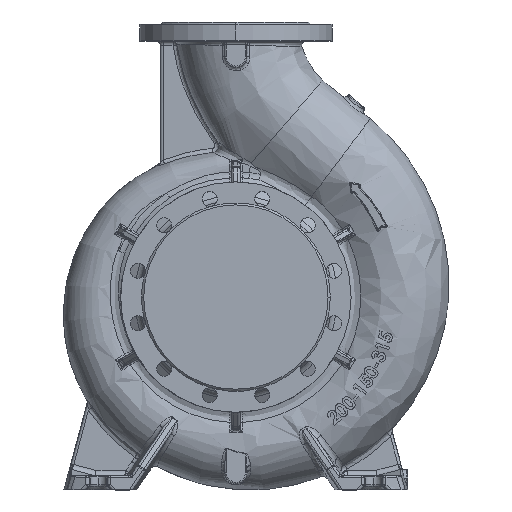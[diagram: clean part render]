
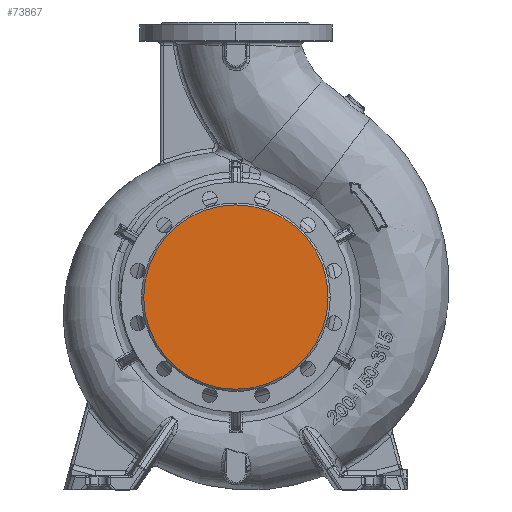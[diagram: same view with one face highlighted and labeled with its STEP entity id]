
A CAD part, top view. The second image highlights one B-rep face of the part: STEP entity #73867.
In plain terms, the highlighted planar face has unit normal (0, 0, 1).
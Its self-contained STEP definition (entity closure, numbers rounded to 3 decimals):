
#2236 = DIRECTION ( 'NONE',  ( 0., 0., 1. ) ) ;
#5449 = AXIS2_PLACEMENT_3D ( 'NONE', #59387, #2236, #34798 ) ;
#5567 = VERTEX_POINT ( 'NONE', #6518 ) ;
#6482 = DIRECTION ( 'NONE',  ( 1., 0., 0. ) ) ;
#6518 = CARTESIAN_POINT ( 'NONE',  ( -134., 0., 160. ) ) ;
#8730 = EDGE_LOOP ( 'NONE', ( #37218, #19426 ) ) ;
#19426 = ORIENTED_EDGE ( 'NONE', *, *, #42690, .T. ) ;
#22165 = DIRECTION ( 'NONE',  ( 0., 0., 1. ) ) ;
#33501 = EDGE_CURVE ( 'NONE', #5567, #37290, #81062, .T. ) ;
#34798 = DIRECTION ( 'NONE',  ( 1., 0., 0. ) ) ;
#37218 = ORIENTED_EDGE ( 'NONE', *, *, #33501, .T. ) ;
#37290 = VERTEX_POINT ( 'NONE', #62995 ) ;
#39255 = DIRECTION ( 'NONE',  ( 0., 0., 1. ) ) ;
#42690 = EDGE_CURVE ( 'NONE', #37290, #5567, #77775, .T. ) ;
#59387 = CARTESIAN_POINT ( 'NONE',  ( 0., 0., 160. ) ) ;
#62995 = CARTESIAN_POINT ( 'NONE',  ( 134., 0., 160. ) ) ;
#71115 = FACE_OUTER_BOUND ( 'NONE', #8730, .T. ) ;
#71752 = DIRECTION ( 'NONE',  ( 1., 0., 0. ) ) ;
#73156 = CARTESIAN_POINT ( 'NONE',  ( 0., 0., 160. ) ) ;
#73867 = ADVANCED_FACE ( 'NONE', ( #71115 ), #81018, .T. ) ;
#77775 = CIRCLE ( 'NONE', #5449, 134. ) ;
#79651 = CARTESIAN_POINT ( 'NONE',  ( 0., 0., 160. ) ) ;
#80891 = AXIS2_PLACEMENT_3D ( 'NONE', #79651, #22165, #6482 ) ;
#81018 = PLANE ( 'NONE',  #94762 ) ;
#81062 = CIRCLE ( 'NONE', #80891, 134. ) ;
#94762 = AXIS2_PLACEMENT_3D ( 'NONE', #73156, #39255, #71752 ) ;
